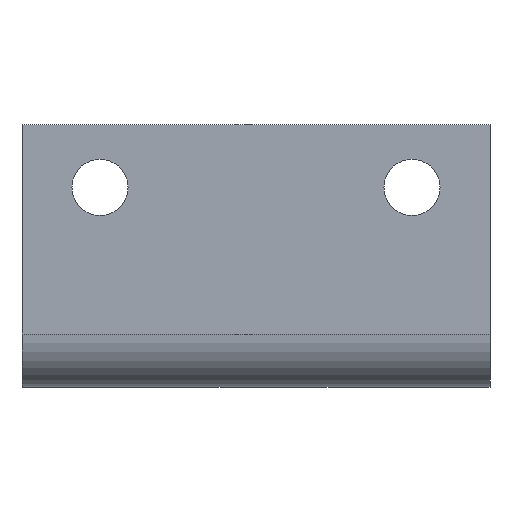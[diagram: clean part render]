
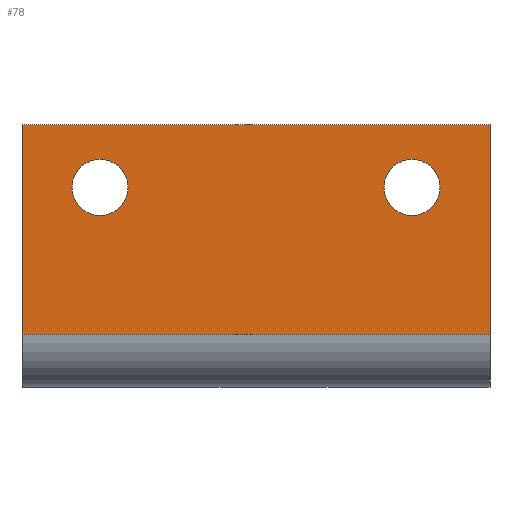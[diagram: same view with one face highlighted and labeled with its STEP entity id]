
A CAD part, front view. The second image highlights one B-rep face of the part: STEP entity #78.
In plain terms, the highlighted planar face has unit normal (0, -1, 0).
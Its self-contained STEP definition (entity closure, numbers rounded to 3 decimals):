
#78 = ADVANCED_FACE( '', ( #175, #176, #177 ), #178, .F. );
#175 = FACE_BOUND( '', #298, .T. );
#176 = FACE_BOUND( '', #299, .T. );
#177 = FACE_OUTER_BOUND( '', #300, .T. );
#178 = PLANE( '', #301 );
#298 = EDGE_LOOP( '', ( #463 ) );
#299 = EDGE_LOOP( '', ( #464 ) );
#300 = EDGE_LOOP( '', ( #465, #466, #467, #468 ) );
#301 = AXIS2_PLACEMENT_3D( '', #469, #470, #471 );
#463 = ORIENTED_EDGE( '', *, *, #718, .F. );
#464 = ORIENTED_EDGE( '', *, *, #711, .F. );
#465 = ORIENTED_EDGE( '', *, *, #719, .T. );
#466 = ORIENTED_EDGE( '', *, *, #720, .F. );
#467 = ORIENTED_EDGE( '', *, *, #673, .F. );
#468 = ORIENTED_EDGE( '', *, *, #721, .T. );
#469 = CARTESIAN_POINT( '', ( 37.5, -50., 42. ) );
#470 = DIRECTION( '', ( 0., 1., 0. ) );
#471 = DIRECTION( '', ( 0., 0., 1. ) );
#673 = EDGE_CURVE( '', #784, #786, #787, .T. );
#711 = EDGE_CURVE( '', #851, #851, #852, .T. );
#718 = EDGE_CURVE( '', #862, #862, #863, .T. );
#719 = EDGE_CURVE( '', #864, #865, #866, .T. );
#720 = EDGE_CURVE( '', #786, #865, #867, .T. );
#721 = EDGE_CURVE( '', #784, #864, #868, .T. );
#784 = VERTEX_POINT( '', #949 );
#786 = VERTEX_POINT( '', #952 );
#787 = LINE( '', #953, #954 );
#851 = VERTEX_POINT( '', #1043 );
#852 = CIRCLE( '', #1044, 4.5 );
#862 = VERTEX_POINT( '', #1057 );
#863 = CIRCLE( '', #1058, 4.5 );
#864 = VERTEX_POINT( '', #1059 );
#865 = VERTEX_POINT( '', #1060 );
#866 = LINE( '', #1061, #1062 );
#867 = LINE( '', #1063, #1064 );
#868 = LINE( '', #1065, #1066 );
#949 = CARTESIAN_POINT( '', ( 37.5, -50., 42. ) );
#952 = CARTESIAN_POINT( '', ( 37.5, -50., 8.5 ) );
#953 = CARTESIAN_POINT( '', ( 37.5, -50., 42. ) );
#954 = VECTOR( '', #1170, 1000. );
#1043 = CARTESIAN_POINT( '', ( -25., -50., 27.5 ) );
#1044 = AXIS2_PLACEMENT_3D( '', #1208, #1209, #1210 );
#1057 = CARTESIAN_POINT( '', ( 25., -50., 27.5 ) );
#1058 = AXIS2_PLACEMENT_3D( '', #1217, #1218, #1219 );
#1059 = CARTESIAN_POINT( '', ( -37.5, -50., 42. ) );
#1060 = CARTESIAN_POINT( '', ( -37.5, -50., 8.5 ) );
#1061 = CARTESIAN_POINT( '', ( -37.5, -50., 42. ) );
#1062 = VECTOR( '', #1220, 1000. );
#1063 = CARTESIAN_POINT( '', ( 37.5, -50., 8.5 ) );
#1064 = VECTOR( '', #1221, 1000. );
#1065 = CARTESIAN_POINT( '', ( 37.5, -50., 42. ) );
#1066 = VECTOR( '', #1222, 1000. );
#1170 = DIRECTION( '', ( 0., 0., -1. ) );
#1208 = CARTESIAN_POINT( '', ( -25., -50., 32. ) );
#1209 = DIRECTION( '', ( 0., -1., 0. ) );
#1210 = DIRECTION( '', ( 0., 0., -1. ) );
#1217 = CARTESIAN_POINT( '', ( 25., -50., 32. ) );
#1218 = DIRECTION( '', ( 0., -1., 0. ) );
#1219 = DIRECTION( '', ( 0., 0., -1. ) );
#1220 = DIRECTION( '', ( 0., 0., -1. ) );
#1221 = DIRECTION( '', ( -1., 0., 0. ) );
#1222 = DIRECTION( '', ( -1., 0., 0. ) );
